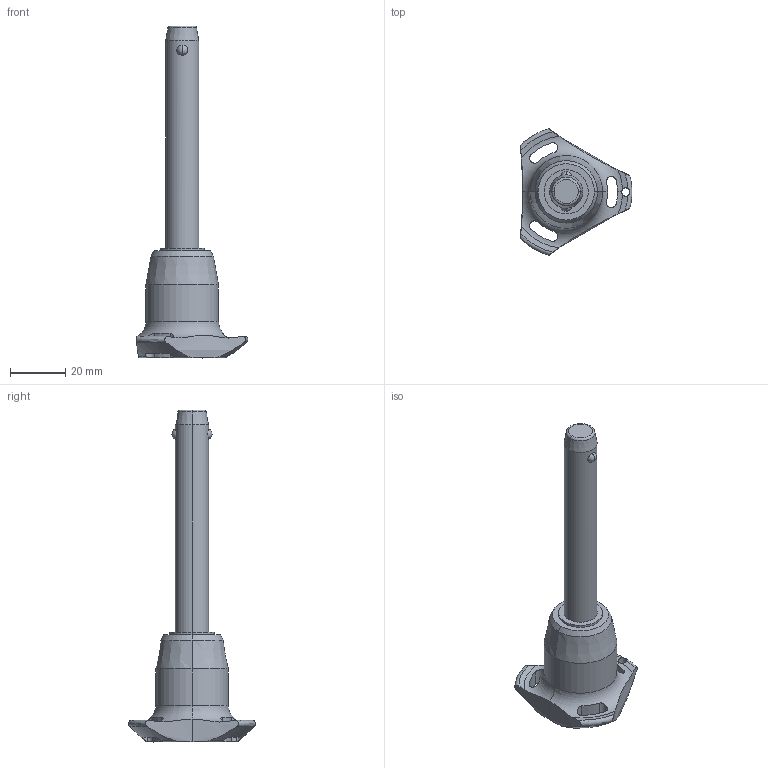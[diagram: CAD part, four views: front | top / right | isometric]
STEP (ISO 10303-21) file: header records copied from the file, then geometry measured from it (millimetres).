
FILE_DESCRIPTION (( 'STEP AP203' ), '1' );
FILE_NAME ('QR1734.M12-070-S.step', '2025-11-12T14:32:02', ( '' ), ( '' ), 'SwSTEP 2.0', 'SolidWorks 2019', '' );
FILE_SCHEMA (( 'CONFIG_CONTROL_DESIGN' ));
Length unit declared in the file: millimetre
Products named in the file (1): QR1734.M12-070-S
Bounding box: 40.5 x 45.88 x 120.3 mm (x, y, z)
Volume: 31052 mm3; surface area: 8976.5 mm2
Topology: 1 solids, 1 shells, 65 faces, 178 edges, 113 vertices
Faces by surface type: cylinder 30, cone 14, torus 11, sphere 6, plane 4
Entity records: 2862 total; most frequent: CARTESIAN_POINT 1173, ORIENTED_EDGE 356, DIRECTION 329, EDGE_CURVE 178, AXIS2_PLACEMENT_3D 147, VERTEX_POINT 113, CIRCLE 81, EDGE_LOOP 71
